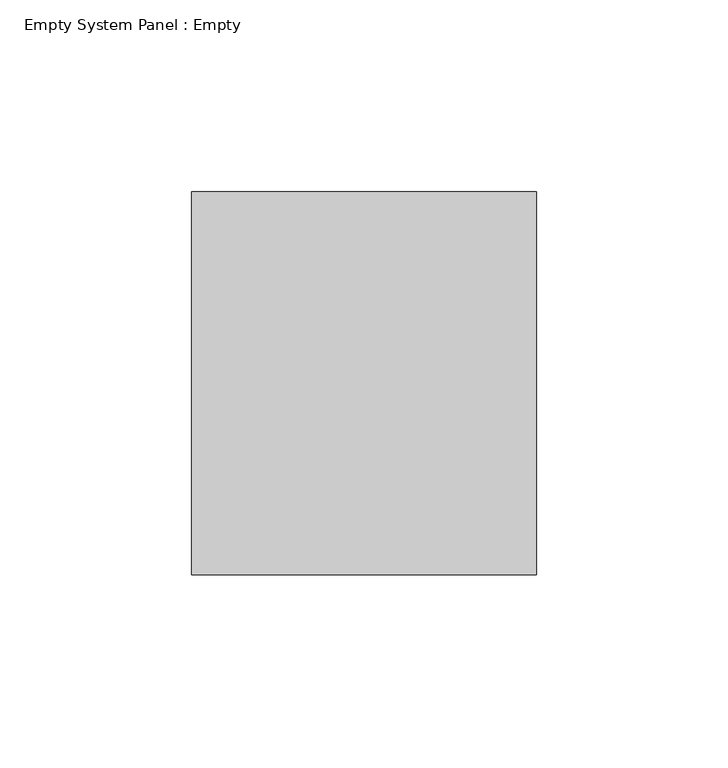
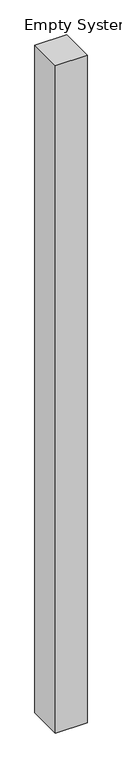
"""IFC4 building model written with IfcOpenShell, lengths in millimetres: plate geometry, Empty System Panel : Empty."""

from ifc_helpers import new_model, si_unit, origin, origin_with_axes, place, context, project, spatial, polyline, outline, extrude, source, transform, mapped, element, save


def empty_system_panel_empty_7f011ee1(model_context):
    return source(origin(), model_context, "Body", "SweptSolid", [
        extrude(outline(polyline([(45.0, -50.0), (-45.0, -50.0), (-45.0, 50.0), (45.0, 50.0), (45.0, -50.0)])), origin_with_axes(), (0.0, 0.0, 1.0), 2000.0),
    ])


if __name__ == "__main__":
    model = new_model("IFC4")
    model_context = context("Model", 3, world=origin())
    ifc_project = project(units=[si_unit("LENGTHUNIT", "METRE", prefix="MILLI")], contexts=[model_context])
    site = spatial("IfcSite", under=ifc_project)
    building = spatial("IfcBuilding", under=site)
    placement = place(None, origin())
    empty_system_panel_empty_shape = empty_system_panel_empty_7f011ee1(model_context)
    element("IfcPlate", 1, ObjectType="Empty System Panel : Empty", at=placement, inside=building, context=model_context, shape_type="MappedRepresentation", body=[
        mapped(empty_system_panel_empty_shape, transform((0.0, 0.0, 0.0), x_axis=(1.0, 0.0, 0.0), y_axis=(0.0, 1.0, 0.0), z_axis=(0.0, 0.0, 1.0))),
    ])
    save(model, "model.ifc")
